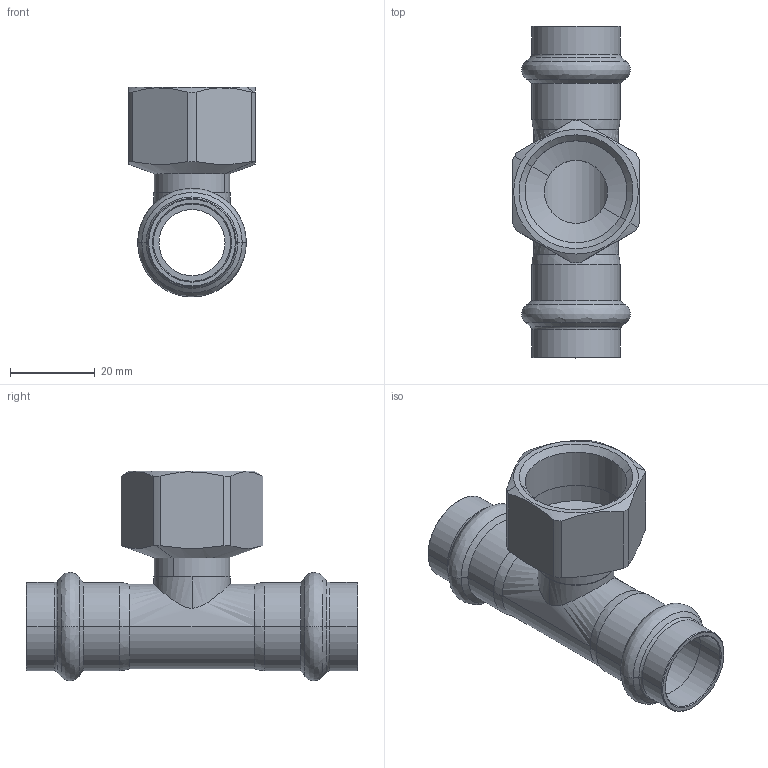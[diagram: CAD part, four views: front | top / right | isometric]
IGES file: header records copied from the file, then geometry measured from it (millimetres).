
Start section: Elysium IGES Interface
Global section: file name: C:\Users\Wallenburg\Desktop\3d modellen sudo\S-Pr VP\SP6130GV\6130GVW183418.igs; native system: CoCreate Modeling 17.00A  17-Jun-2010; preprocessor: CoCreate IGES_3D V2.2; author: Unknown; organization: Unknown; date: 20130121.144501; units: millimetre
Bounding box: 30 x 78.51 x 49.64 mm (x, y, z)
Volume: 13897.7 mm3; surface area: 15240.3 mm2
Topology: 1 solids, 1 shells, 120 faces, 259 edges, 149 vertices
Faces by surface type: bspline 120
